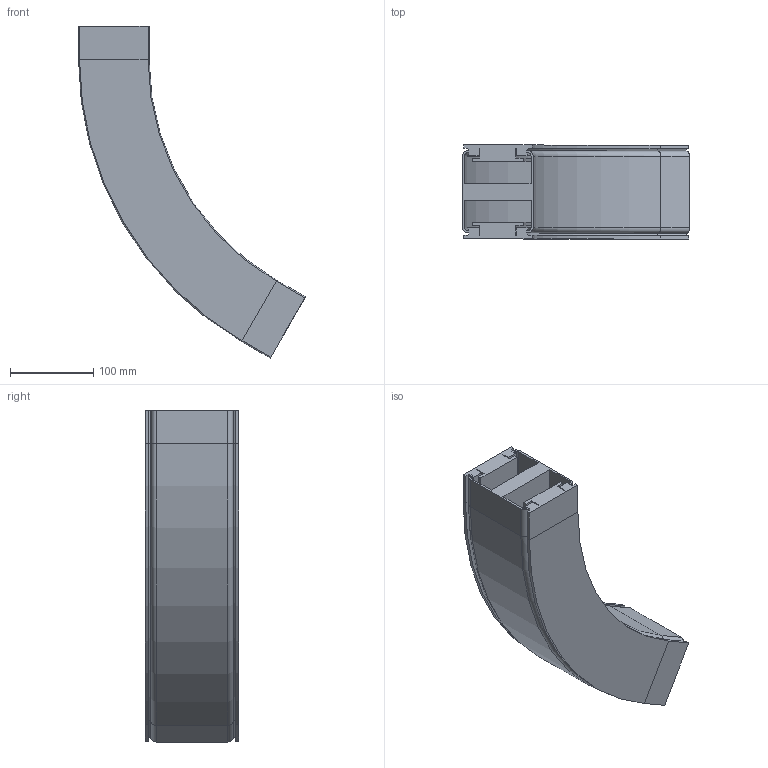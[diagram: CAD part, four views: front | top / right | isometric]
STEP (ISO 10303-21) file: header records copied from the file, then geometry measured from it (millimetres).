
FILE_DESCRIPTION (( 'STEP AP214' ), '1' );
FILE_NAME ('VC.85 Horizontale bochtsectie R350 60°.STEP', '2016-10-19T07:02:50', ( '' ), ( '' ), 'SwSTEP 2.0', 'SolidWorks 2016', '' );
FILE_SCHEMA (( 'AUTOMOTIVE_DESIGN' ));
Length unit declared in the file: millimetre
Products named in the file (1): VC.85 Horizontale bochtsectie R350 60°
Bounding box: 273.39 x 113 x 399.92 mm (x, y, z)
Volume: 2128614.9 mm3; surface area: 495662.7 mm2
Topology: 1 solids, 1 shells, 206 faces, 476 edges, 272 vertices
Faces by surface type: plane 152, cylinder 38, cone 8, torus 8
Entity records: 5674 total; most frequent: DIRECTION 990, CARTESIAN_POINT 955, ORIENTED_EDGE 952, EDGE_CURVE 476, VECTOR 376, LINE 376, AXIS2_PLACEMENT_3D 307, VERTEX_POINT 272
